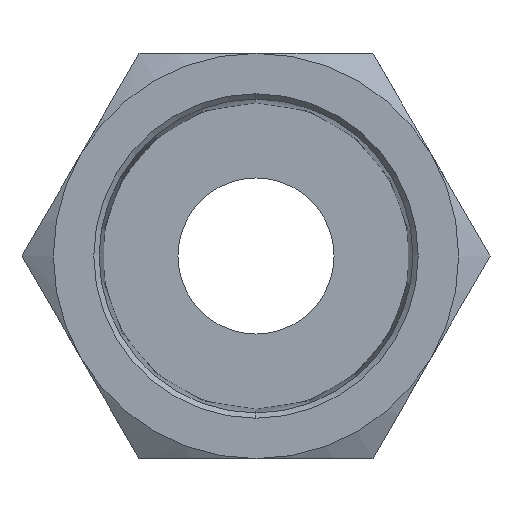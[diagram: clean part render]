
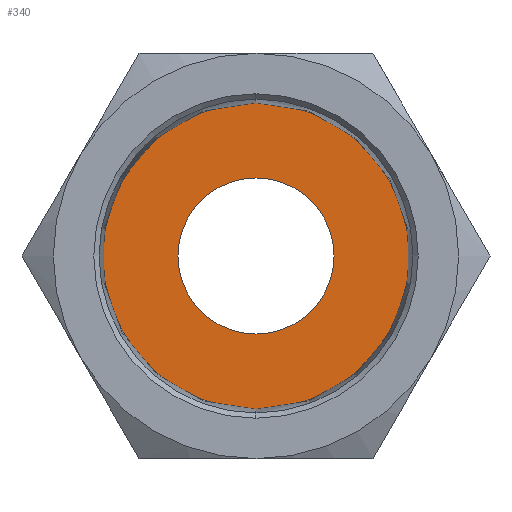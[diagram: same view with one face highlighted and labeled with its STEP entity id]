
A CAD part, left-side view. The second image highlights one B-rep face of the part: STEP entity #340.
In plain terms, the highlighted planar face has unit normal (-1, 0, 0).
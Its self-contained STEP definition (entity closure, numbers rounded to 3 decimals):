
#24 = EDGE_CURVE ( 'NONE', #1658, #1657, #394, .T. ) ;
#94 = EDGE_CURVE ( 'NONE', #95, #96, #588, .T. ) ;
#95 = VERTEX_POINT ( 'NONE', #580 ) ;
#96 = VERTEX_POINT ( 'NONE', #579 ) ;
#283 = ORIENTED_EDGE ( 'NONE', *, *, #284, .T. ) ;
#284 = EDGE_CURVE ( 'NONE', #96, #95, #1137, .T. ) ;
#285 = ORIENTED_EDGE ( 'NONE', *, *, #94, .T. ) ;
#286 = EDGE_LOOP ( 'NONE', ( #287, #288 ) ) ;
#287 = ORIENTED_EDGE ( 'NONE', *, *, #24, .T. ) ;
#288 = ORIENTED_EDGE ( 'NONE', *, *, #1656, .T. ) ;
#340 = ADVANCED_FACE ( 'NONE', ( #1058, #1057 ), #1056, .T. ) ;
#341 = EDGE_LOOP ( 'NONE', ( #283, #285 ) ) ;
#387 = DIRECTION ( 'NONE',  ( 0., 0., 1. ) ) ;
#388 = DIRECTION ( 'NONE',  ( 1., 0., 0. ) ) ;
#389 = CARTESIAN_POINT ( 'NONE',  ( 8.13, 0., 0. ) ) ;
#390 = AXIS2_PLACEMENT_3D ( 'NONE', #389, #388, #387 ) ;
#394 = CIRCLE ( 'NONE', #390, 5.2 ) ;
#579 = CARTESIAN_POINT ( 'NONE',  ( 8.13, 0., 10.203 ) ) ;
#580 = CARTESIAN_POINT ( 'NONE',  ( 8.13, 0., -10.203 ) ) ;
#581 = DIRECTION ( 'NONE',  ( 0., 0., 1. ) ) ;
#582 = DIRECTION ( 'NONE',  ( -1., 0., 0. ) ) ;
#583 = CARTESIAN_POINT ( 'NONE',  ( 8.13, 0., 0. ) ) ;
#584 = AXIS2_PLACEMENT_3D ( 'NONE', #583, #582, #581 ) ;
#588 = CIRCLE ( 'NONE', #584, 10.203 ) ;
#1051 = DIRECTION ( 'NONE',  ( 0., 0., 1. ) ) ;
#1052 = DIRECTION ( 'NONE',  ( -1., 0., 0. ) ) ;
#1053 = AXIS2_PLACEMENT_3D ( 'NONE', #1055, #1052, #1051 ) ;
#1055 = CARTESIAN_POINT ( 'NONE',  ( 8.13, 0., 0. ) ) ;
#1056 = PLANE ( 'NONE',  #1053 ) ;
#1057 = FACE_BOUND ( 'NONE', #286, .T. ) ;
#1058 = FACE_OUTER_BOUND ( 'NONE', #341, .T. ) ;
#1133 = DIRECTION ( 'NONE',  ( 0., 0., 1. ) ) ;
#1134 = DIRECTION ( 'NONE',  ( -1., 0., 0. ) ) ;
#1135 = CARTESIAN_POINT ( 'NONE',  ( 8.13, 0., 0. ) ) ;
#1136 = AXIS2_PLACEMENT_3D ( 'NONE', #1135, #1134, #1133 ) ;
#1137 = CIRCLE ( 'NONE', #1136, 10.203 ) ;
#1426 = CARTESIAN_POINT ( 'NONE',  ( 8.13, 0., -5.2 ) ) ;
#1427 = CARTESIAN_POINT ( 'NONE',  ( 8.13, 0., 5.2 ) ) ;
#1428 = DIRECTION ( 'NONE',  ( 0., 0., 1. ) ) ;
#1429 = DIRECTION ( 'NONE',  ( 1., 0., 0. ) ) ;
#1430 = CARTESIAN_POINT ( 'NONE',  ( 8.13, 0., 0. ) ) ;
#1431 = AXIS2_PLACEMENT_3D ( 'NONE', #1430, #1429, #1428 ) ;
#1432 = CIRCLE ( 'NONE', #1431, 5.2 ) ;
#1656 = EDGE_CURVE ( 'NONE', #1657, #1658, #1432, .T. ) ;
#1657 = VERTEX_POINT ( 'NONE', #1427 ) ;
#1658 = VERTEX_POINT ( 'NONE', #1426 ) ;
